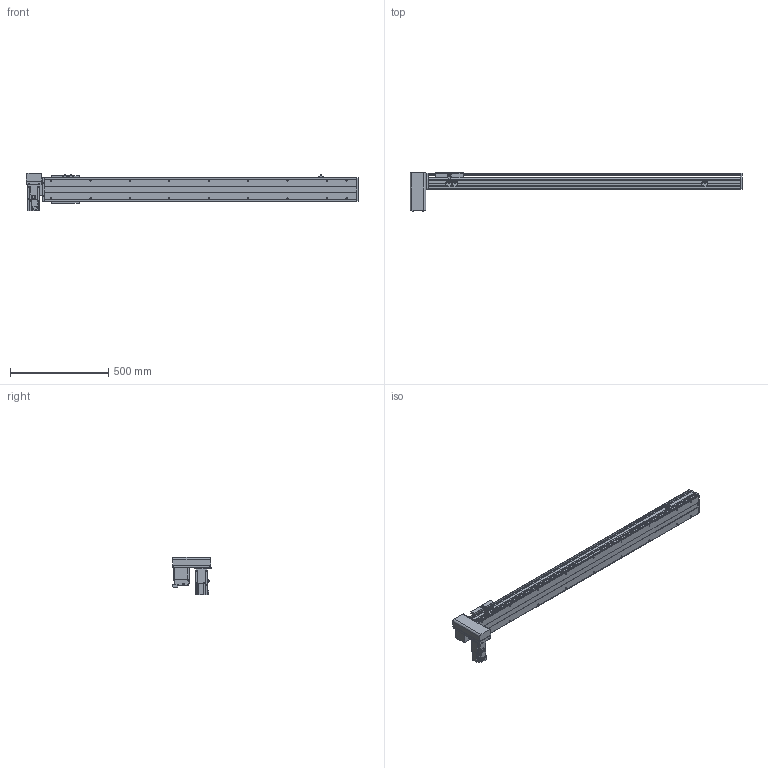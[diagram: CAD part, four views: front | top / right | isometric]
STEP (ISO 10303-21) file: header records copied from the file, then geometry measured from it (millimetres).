
FILE_DESCRIPTION( ( 'STEP AP214' ), '1' );
FILE_NAME( 'x:/temp/worker_27/temp/exporttempdir_6708_187_EBGqw/format_0/PBS120-P40-S1300-RD-T40-C1-N(0).stp', '2022-06-06T00:41:52', ( 'License CC BY-ND 4.0' ), ( 'CADENAS' ), ' ', 'PARTsolutions', ' ' );
FILE_SCHEMA( ( 'AUTOMOTIVE_DESIGN { 1 0 10303 214 1 1 1 1 }' ) );
Length unit declared in the file: millimetre
Products named in the file (7): PBS120-P40-S1300-RD-T40-C1-N(0); _PBS120-S1300()_body; _PBS120T-RD_motors; _T40-p1; _PBS120_sliser; _PBS120_plant; _PBS120_sensor
Assembly tree (8 placements, depth 2):
  PBS120-P40-S1300-RD-T40-C1-N(0)
    _PBS120-S1300()_body
    _PBS120T-RD_motors
    _T40-p1
    _PBS120_sliser
    _PBS120_plant
    _PBS120_sensor  x3
Bounding box: 1686 x 196 x 189.7 mm (x, y, z)
Volume: 6937675.9 mm3; surface area: 1379269.7 mm2
Topology: 8 solids, 8 shells, 834 faces, 2166 edges, 1393 vertices
Faces by surface type: plane 551, cylinder 231, cone 50, torus 2
Full cylindrical faces by diameter (mm): 2.459 x6, 3.242 x4, 4 x2, 4.134 x4, 4.5 x10, 4.917 x22, 5.5 x11, 6 x2, 6.6 x1, 7 x2, 8.5 x4, 9 x4, 12 x1, 14 x1, 30 x2, 40 x1, 50 x2
Entity records: 27492 total; most frequent: DIRECTION 3764, CARTESIAN_POINT 3695, ORIENTED_EDGE 3514, EDGE_CURVE 1757, AXIS2_PLACEMENT_3D 1268, LINE 1228, VECTOR 1228, VERTEX_POINT 1199
